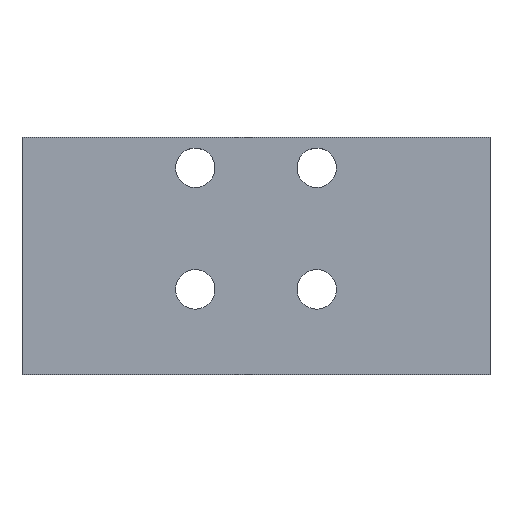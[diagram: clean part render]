
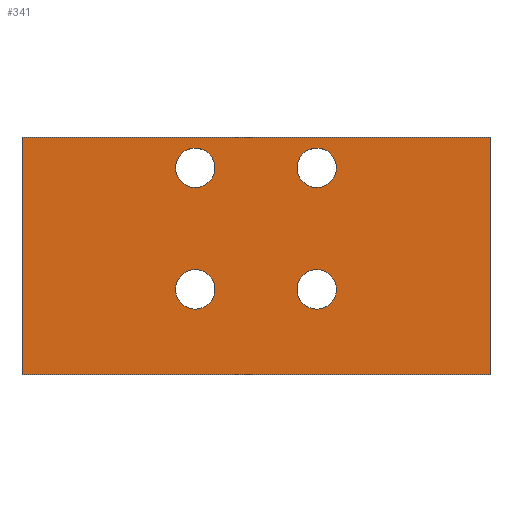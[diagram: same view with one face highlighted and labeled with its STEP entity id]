
A CAD part, top view. The second image highlights one B-rep face of the part: STEP entity #341.
In plain terms, the highlighted planar face has unit normal (0, 0, 1).
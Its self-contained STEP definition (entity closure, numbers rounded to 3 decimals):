
#74=DIRECTION('',(0.,-1.,0.));
#75=VECTOR('',#74,39.);
#76=CARTESIAN_POINT('',(-38.5,19.5,4.));
#77=LINE('',#76,#75);
#78=DIRECTION('',(-1.,0.,0.));
#79=VECTOR('',#78,77.);
#80=CARTESIAN_POINT('',(38.5,19.5,4.));
#81=LINE('',#80,#79);
#82=DIRECTION('',(0.,1.,0.));
#83=VECTOR('',#82,39.);
#84=CARTESIAN_POINT('',(38.5,-19.5,4.));
#85=LINE('',#84,#83);
#86=DIRECTION('',(1.,0.,0.));
#87=VECTOR('',#86,77.);
#88=CARTESIAN_POINT('',(-38.5,-19.5,4.));
#89=LINE('',#88,#87);
#90=CARTESIAN_POINT('',(-10.,14.5,4.));
#91=DIRECTION('',(0.,0.,-1.));
#92=DIRECTION('',(-1.,0.,0.));
#93=AXIS2_PLACEMENT_3D('',#90,#91,#92);
#95=CARTESIAN_POINT('',(-10.,14.5,4.));
#96=DIRECTION('',(0.,0.,-1.));
#97=DIRECTION('',(1.,0.,0.));
#98=AXIS2_PLACEMENT_3D('',#95,#96,#97);
#100=CARTESIAN_POINT('',(10.,14.5,4.));
#101=DIRECTION('',(0.,0.,-1.));
#102=DIRECTION('',(-1.,0.,0.));
#103=AXIS2_PLACEMENT_3D('',#100,#101,#102);
#105=CARTESIAN_POINT('',(10.,14.5,4.));
#106=DIRECTION('',(0.,0.,-1.));
#107=DIRECTION('',(1.,0.,0.));
#108=AXIS2_PLACEMENT_3D('',#105,#106,#107);
#110=CARTESIAN_POINT('',(-10.,-5.5,4.));
#111=DIRECTION('',(0.,0.,-1.));
#112=DIRECTION('',(-1.,0.,0.));
#113=AXIS2_PLACEMENT_3D('',#110,#111,#112);
#115=CARTESIAN_POINT('',(-10.,-5.5,4.));
#116=DIRECTION('',(0.,0.,-1.));
#117=DIRECTION('',(1.,0.,0.));
#118=AXIS2_PLACEMENT_3D('',#115,#116,#117);
#120=CARTESIAN_POINT('',(10.,-5.5,4.));
#121=DIRECTION('',(0.,0.,-1.));
#122=DIRECTION('',(-1.,0.,0.));
#123=AXIS2_PLACEMENT_3D('',#120,#121,#122);
#125=CARTESIAN_POINT('',(10.,-5.5,4.));
#126=DIRECTION('',(0.,0.,-1.));
#127=DIRECTION('',(1.,0.,0.));
#128=AXIS2_PLACEMENT_3D('',#125,#126,#127);
#170=CARTESIAN_POINT('',(-38.5,19.5,4.));
#171=CARTESIAN_POINT('',(-38.5,-19.5,4.));
#172=VERTEX_POINT('',#170);
#173=VERTEX_POINT('',#171);
#174=CARTESIAN_POINT('',(38.5,-19.5,4.));
#175=VERTEX_POINT('',#174);
#176=CARTESIAN_POINT('',(38.5,19.5,4.));
#177=VERTEX_POINT('',#176);
#182=CARTESIAN_POINT('',(-13.25,14.5,4.));
#183=CARTESIAN_POINT('',(-6.75,14.5,4.));
#184=VERTEX_POINT('',#182);
#185=VERTEX_POINT('',#183);
#190=CARTESIAN_POINT('',(6.75,14.5,4.));
#191=CARTESIAN_POINT('',(13.25,14.5,4.));
#192=VERTEX_POINT('',#190);
#193=VERTEX_POINT('',#191);
#198=CARTESIAN_POINT('',(-13.25,-5.5,4.));
#199=CARTESIAN_POINT('',(-6.75,-5.5,4.));
#200=VERTEX_POINT('',#198);
#201=VERTEX_POINT('',#199);
#206=CARTESIAN_POINT('',(6.75,-5.5,4.));
#207=CARTESIAN_POINT('',(13.25,-5.5,4.));
#208=VERTEX_POINT('',#206);
#209=VERTEX_POINT('',#207);
#306=CARTESIAN_POINT('',(0.,0.,4.));
#307=DIRECTION('',(0.,0.,1.));
#308=DIRECTION('',(1.,0.,0.));
#309=AXIS2_PLACEMENT_3D('',#306,#307,#308);
#310=PLANE('',#309);
#311=ORIENTED_EDGE('',*,*,#258,.F.);
#312=ORIENTED_EDGE('',*,*,#273,.F.);
#313=ORIENTED_EDGE('',*,*,#287,.F.);
#314=ORIENTED_EDGE('',*,*,#300,.F.);
#315=EDGE_LOOP('',(#311,#312,#313,#314));
#316=FACE_OUTER_BOUND('',#315,.F.);
#318=ORIENTED_EDGE('',*,*,#317,.F.);
#320=ORIENTED_EDGE('',*,*,#319,.F.);
#321=EDGE_LOOP('',(#318,#320));
#322=FACE_BOUND('',#321,.F.);
#324=ORIENTED_EDGE('',*,*,#323,.F.);
#326=ORIENTED_EDGE('',*,*,#325,.F.);
#327=EDGE_LOOP('',(#324,#326));
#328=FACE_BOUND('',#327,.F.);
#330=ORIENTED_EDGE('',*,*,#329,.F.);
#332=ORIENTED_EDGE('',*,*,#331,.F.);
#333=EDGE_LOOP('',(#330,#332));
#334=FACE_BOUND('',#333,.F.);
#336=ORIENTED_EDGE('',*,*,#335,.F.);
#338=ORIENTED_EDGE('',*,*,#337,.F.);
#339=EDGE_LOOP('',(#336,#338));
#340=FACE_BOUND('',#339,.F.);
#341=ADVANCED_FACE('',(#316,#322,#328,#334,#340),#310,.T.);
#94=CIRCLE('',#93,3.25);
#99=CIRCLE('',#98,3.25);
#104=CIRCLE('',#103,3.25);
#109=CIRCLE('',#108,3.25);
#114=CIRCLE('',#113,3.25);
#119=CIRCLE('',#118,3.25);
#124=CIRCLE('',#123,3.25);
#129=CIRCLE('',#128,3.25);
#258=EDGE_CURVE('',#172,#173,#77,.T.);
#273=EDGE_CURVE('',#177,#172,#81,.T.);
#287=EDGE_CURVE('',#175,#177,#85,.T.);
#300=EDGE_CURVE('',#173,#175,#89,.T.);
#317=EDGE_CURVE('',#184,#185,#94,.T.);
#319=EDGE_CURVE('',#185,#184,#99,.T.);
#323=EDGE_CURVE('',#192,#193,#104,.T.);
#325=EDGE_CURVE('',#193,#192,#109,.T.);
#329=EDGE_CURVE('',#200,#201,#114,.T.);
#331=EDGE_CURVE('',#201,#200,#119,.T.);
#335=EDGE_CURVE('',#208,#209,#124,.T.);
#337=EDGE_CURVE('',#209,#208,#129,.T.);
